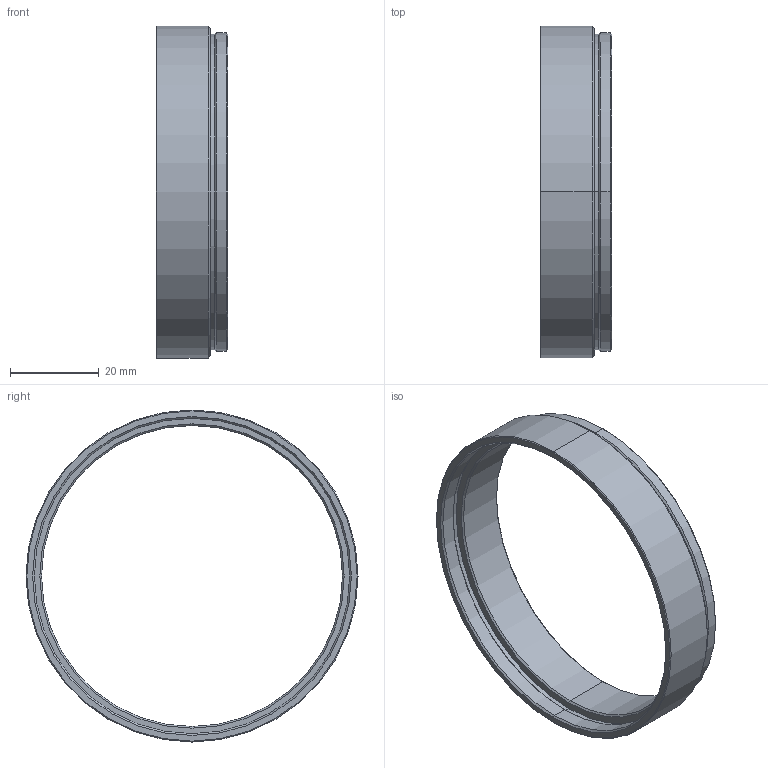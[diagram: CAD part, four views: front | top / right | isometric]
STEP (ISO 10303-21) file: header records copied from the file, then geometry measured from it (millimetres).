
FILE_DESCRIPTION (( 'STEP AP203' ), '1' );
FILE_NAME ('VS-MT-FB19.55.STEP', '2017-03-16T00:26:41', ( 'miura_vst' ), ( '' ), 'SwSTEP 2.0', 'SolidWorks 2017', '' );
FILE_SCHEMA (( 'CONFIG_CONTROL_DESIGN' ));
Length unit declared in the file: millimetre
Products named in the file (1): VS-MT-FB19.55
Bounding box: 16.25 x 75 x 75 mm (x, y, z)
Volume: 9316.6 mm3; surface area: 8835.3 mm2
Topology: 1 solids, 1 shells, 32 faces, 64 edges, 36 vertices
Faces by surface type: cone 16, cylinder 12, plane 4
Entity records: 905 total; most frequent: DIRECTION 166, CARTESIAN_POINT 133, ORIENTED_EDGE 128, AXIS2_PLACEMENT_3D 69, EDGE_CURVE 64, EDGE_LOOP 36, CIRCLE 36, VERTEX_POINT 36
